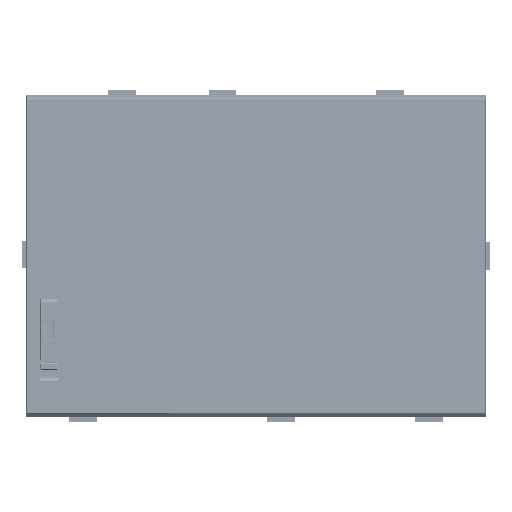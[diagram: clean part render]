
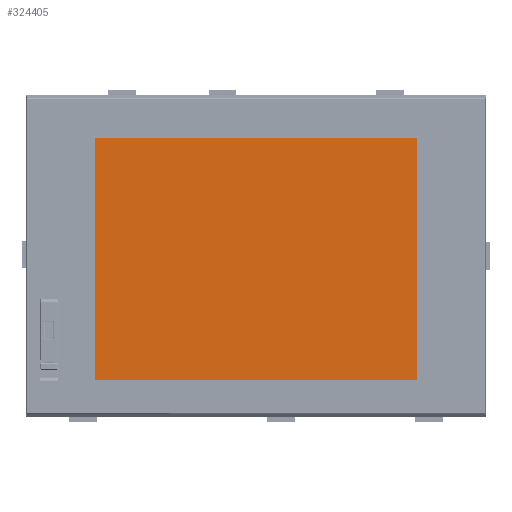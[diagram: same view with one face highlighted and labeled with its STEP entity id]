
A CAD part, top view. The second image highlights one B-rep face of the part: STEP entity #324405.
In plain terms, the highlighted planar face has unit normal (0, 0, 1).
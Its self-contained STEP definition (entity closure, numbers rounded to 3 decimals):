
#124787=DIRECTION('',(0.,1.,0.));
#124788=VECTOR('',#124787,157.9);
#124789=CARTESIAN_POINT('',(-106.35,-81.005,-0.1));
#124790=LINE('',#124789,#124788);
#124791=CARTESIAN_POINT('',(-105.35,76.895,-0.1));
#124792=DIRECTION('',(0.,0.,-1.));
#124793=DIRECTION('',(-1.,0.,0.));
#124794=AXIS2_PLACEMENT_3D('',#124791,#124792,#124793);
#124796=DIRECTION('',(1.,0.,0.));
#124797=VECTOR('',#124796,210.7);
#124798=CARTESIAN_POINT('',(-105.35,77.895,-0.1));
#124799=LINE('',#124798,#124797);
#124800=CARTESIAN_POINT('',(105.35,76.895,-0.1));
#124801=DIRECTION('',(0.,0.,-1.));
#124802=DIRECTION('',(0.,1.,0.));
#124803=AXIS2_PLACEMENT_3D('',#124800,#124801,#124802);
#124805=DIRECTION('',(0.,-1.,0.));
#124806=VECTOR('',#124805,157.9);
#124807=CARTESIAN_POINT('',(106.35,76.895,-0.1));
#124808=LINE('',#124807,#124806);
#124809=CARTESIAN_POINT('',(105.35,-81.005,-0.1));
#124810=DIRECTION('',(0.,0.,-1.));
#124811=DIRECTION('',(1.,0.,0.));
#124812=AXIS2_PLACEMENT_3D('',#124809,#124810,#124811);
#124814=DIRECTION('',(-1.,0.,0.));
#124815=VECTOR('',#124814,210.7);
#124816=CARTESIAN_POINT('',(105.35,-82.005,-0.1));
#124817=LINE('',#124816,#124815);
#124818=CARTESIAN_POINT('',(-105.35,-81.005,-0.1));
#124819=DIRECTION('',(0.,0.,-1.));
#124820=DIRECTION('',(0.,-1.,0.));
#124821=AXIS2_PLACEMENT_3D('',#124818,#124819,#124820);
#157994=CARTESIAN_POINT('',(-106.35,76.895,-0.1));
#157995=VERTEX_POINT('',#157994);
#157996=CARTESIAN_POINT('',(-106.35,-81.005,-0.1));
#157997=VERTEX_POINT('',#157996);
#157998=CARTESIAN_POINT('',(-105.35,77.895,-0.1));
#157999=VERTEX_POINT('',#157998);
#158000=CARTESIAN_POINT('',(105.35,77.895,-0.1));
#158001=VERTEX_POINT('',#158000);
#158002=CARTESIAN_POINT('',(106.35,76.895,-0.1));
#158003=VERTEX_POINT('',#158002);
#158004=CARTESIAN_POINT('',(106.35,-81.005,-0.1));
#158005=VERTEX_POINT('',#158004);
#158006=CARTESIAN_POINT('',(105.35,-82.005,-0.1));
#158007=VERTEX_POINT('',#158006);
#158008=CARTESIAN_POINT('',(-105.35,-82.005,-0.1));
#158009=VERTEX_POINT('',#158008);
#324390=CARTESIAN_POINT('',(0.,0.,-0.1));
#324391=DIRECTION('',(0.,0.,1.));
#324392=DIRECTION('',(1.,0.,0.));
#324393=AXIS2_PLACEMENT_3D('',#324390,#324391,#324392);
#324394=PLANE('',#324393);
#324395=ORIENTED_EDGE('',*,*,#324286,.T.);
#324396=ORIENTED_EDGE('',*,*,#324301,.T.);
#324397=ORIENTED_EDGE('',*,*,#324315,.T.);
#324398=ORIENTED_EDGE('',*,*,#324329,.T.);
#324399=ORIENTED_EDGE('',*,*,#324343,.T.);
#324400=ORIENTED_EDGE('',*,*,#324357,.T.);
#324401=ORIENTED_EDGE('',*,*,#324371,.T.);
#324402=ORIENTED_EDGE('',*,*,#324384,.T.);
#324403=EDGE_LOOP('',(#324395,#324396,#324397,#324398,#324399,#324400,#324401,
#324402));
#324404=FACE_OUTER_BOUND('',#324403,.F.);
#324405=ADVANCED_FACE('',(#324404),#324394,.T.);
#124795=CIRCLE('',#124794,1.);
#124804=CIRCLE('',#124803,1.);
#124813=CIRCLE('',#124812,1.);
#124822=CIRCLE('',#124821,1.);
#324286=EDGE_CURVE('',#157997,#157995,#124790,.T.);
#324301=EDGE_CURVE('',#157995,#157999,#124795,.T.);
#324315=EDGE_CURVE('',#157999,#158001,#124799,.T.);
#324329=EDGE_CURVE('',#158001,#158003,#124804,.T.);
#324343=EDGE_CURVE('',#158003,#158005,#124808,.T.);
#324357=EDGE_CURVE('',#158005,#158007,#124813,.T.);
#324371=EDGE_CURVE('',#158007,#158009,#124817,.T.);
#324384=EDGE_CURVE('',#158009,#157997,#124822,.T.);
